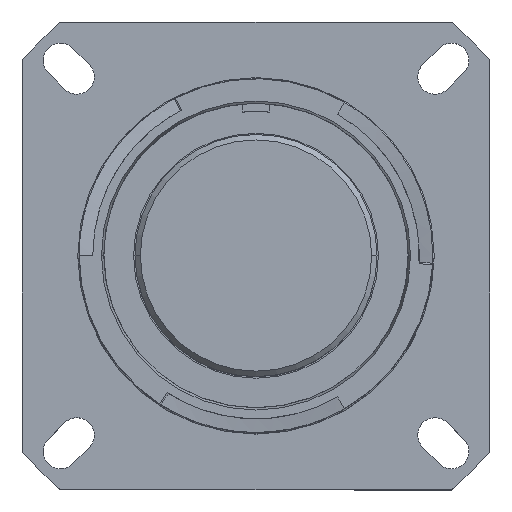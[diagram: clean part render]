
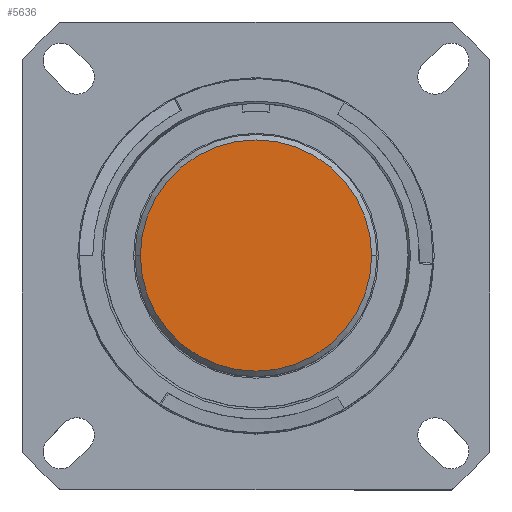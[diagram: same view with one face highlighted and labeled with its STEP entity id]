
A CAD part, top view. The second image highlights one B-rep face of the part: STEP entity #5636.
In plain terms, the highlighted planar face has unit normal (0, 0, 1).
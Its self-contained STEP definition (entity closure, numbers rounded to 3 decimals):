
#55 = CIRCLE ( 'NONE', #5520, 10.795 ) ;
#242 = AXIS2_PLACEMENT_3D ( 'NONE', #3527, #770, #435 ) ;
#313 = ORIENTED_EDGE ( 'NONE', *, *, #5927, .T. ) ;
#427 = EDGE_CURVE ( 'NONE', #5364, #3956, #1734, .T. ) ;
#435 = DIRECTION ( 'NONE',  ( 1., 0., 0. ) ) ;
#652 = CARTESIAN_POINT ( 'NONE',  ( 10.795, 0., -0.457 ) ) ;
#770 = DIRECTION ( 'NONE',  ( 0., 0., 1. ) ) ;
#841 = CARTESIAN_POINT ( 'NONE',  ( -10.795, 0., -0.457 ) ) ;
#970 = EDGE_LOOP ( 'NONE', ( #313, #1903 ) ) ;
#1694 = PLANE ( 'NONE',  #242 ) ;
#1734 = CIRCLE ( 'NONE', #2987, 10.795 ) ;
#1903 = ORIENTED_EDGE ( 'NONE', *, *, #427, .T. ) ;
#2987 = AXIS2_PLACEMENT_3D ( 'NONE', #4703, #5544, #5178 ) ;
#3376 = DIRECTION ( 'NONE',  ( 1., 0., 0. ) ) ;
#3527 = CARTESIAN_POINT ( 'NONE',  ( 0., 0., -0.457 ) ) ;
#3542 = DIRECTION ( 'NONE',  ( 0., 0., 1. ) ) ;
#3956 = VERTEX_POINT ( 'NONE', #841 ) ;
#4246 = CARTESIAN_POINT ( 'NONE',  ( 0., 0., -0.457 ) ) ;
#4555 = FACE_OUTER_BOUND ( 'NONE', #970, .T. ) ;
#4703 = CARTESIAN_POINT ( 'NONE',  ( 0., 0., -0.457 ) ) ;
#5178 = DIRECTION ( 'NONE',  ( 1., 0., 0. ) ) ;
#5364 = VERTEX_POINT ( 'NONE', #652 ) ;
#5520 = AXIS2_PLACEMENT_3D ( 'NONE', #4246, #3542, #3376 ) ;
#5544 = DIRECTION ( 'NONE',  ( 0., 0., 1. ) ) ;
#5636 = ADVANCED_FACE ( 'NONE', ( #4555 ), #1694, .T. ) ;
#5927 = EDGE_CURVE ( 'NONE', #3956, #5364, #55, .T. ) ;
